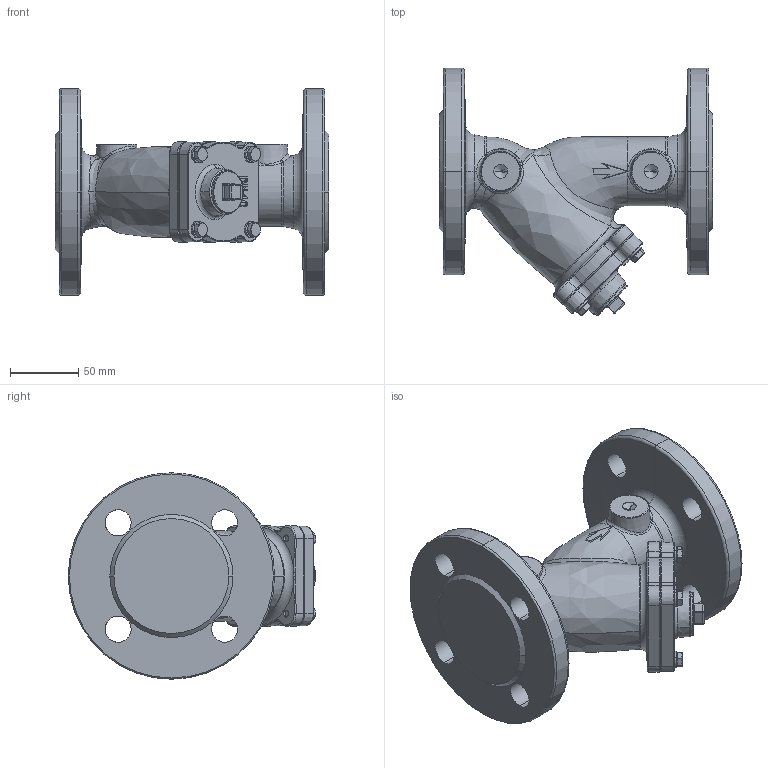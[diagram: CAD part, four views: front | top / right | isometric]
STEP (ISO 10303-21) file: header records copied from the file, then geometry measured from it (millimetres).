
FILE_DESCRIPTION (( 'STEP AP203' ), '1' );
FILE_NAME ('11.000C DN40.STEP', '2022-09-05T07:40:46', ( '' ), ( '' ), 'SwSTEP 2.0', 'SolidWorks 2017', '' );
FILE_SCHEMA (( 'CONFIG_CONTROL_DESIGN' ));
Products named in the file (1): 11.000C DN40
Bounding box: 200.06 x 181.01 x 150.9 mm (x, y, z)
Volume: 1228895.8 mm3; surface area: 141268.4 mm2
Topology: 1 solids, 14 shells, 969 faces, 2241 edges, 1322 vertices
Faces by surface type: cone 364, cylinder 263, plane 157, bspline 155, torus 30
Entity records: 45326 total; most frequent: CARTESIAN_POINT 24233, ORIENTED_EDGE 4466, DIRECTION 4343, EDGE_CURVE 2233, AXIS2_PLACEMENT_3D 1768, VERTEX_POINT 1322, EDGE_LOOP 1025, ADVANCED_FACE 969
